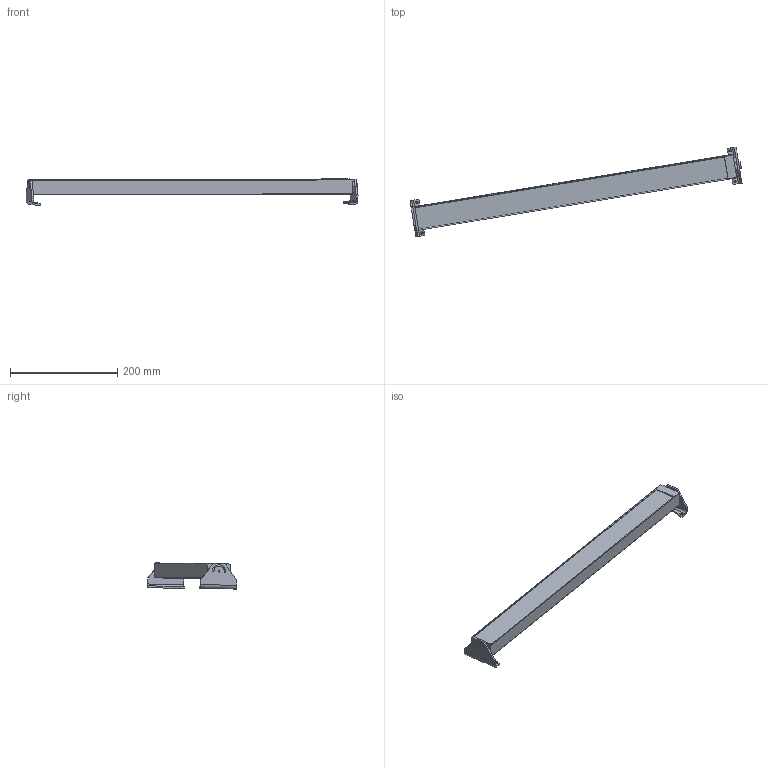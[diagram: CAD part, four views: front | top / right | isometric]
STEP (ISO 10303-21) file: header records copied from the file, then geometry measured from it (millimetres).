
FILE_DESCRIPTION (( 'STEP AP203' ), '1' );
FILE_NAME ('GAU-24-16W-LED STEP.STEP', '2013-10-20T04:04:01', ( 'CAD' ), ( 'Toshiba' ), 'SwSTEP 2.0', 'SolidWorks 2011', '' );
FILE_SCHEMA (( 'CONFIG_CONTROL_DESIGN' ));
Length unit declared in the file: millimetre
Products named in the file (4): GAU-24-16W-LED STEP; foot with plastic_1; foot without cord_1; GAU-24-16W-LED
Assembly tree (3 placements, depth 2):
  GAU-24-16W-LED STEP
    foot without cord_1
    foot with plastic_1
    GAU-24-16W-LED
Bounding box: 618.7 x 167.55 x 48.65 mm (x, y, z)
Volume: 695113.2 mm3; surface area: 110873.9 mm2
Topology: 3 solids, 4 shells, 87 faces, 223 edges, 148 vertices
Faces by surface type: plane 56, cylinder 31
Entity records: 3081 total; most frequent: DIRECTION 473, CARTESIAN_POINT 464, ORIENTED_EDGE 446, EDGE_CURVE 223, LINE 159, VECTOR 159, AXIS2_PLACEMENT_3D 157, VERTEX_POINT 148
